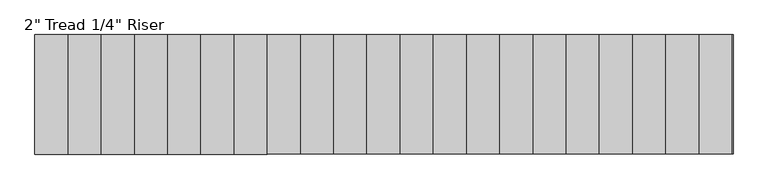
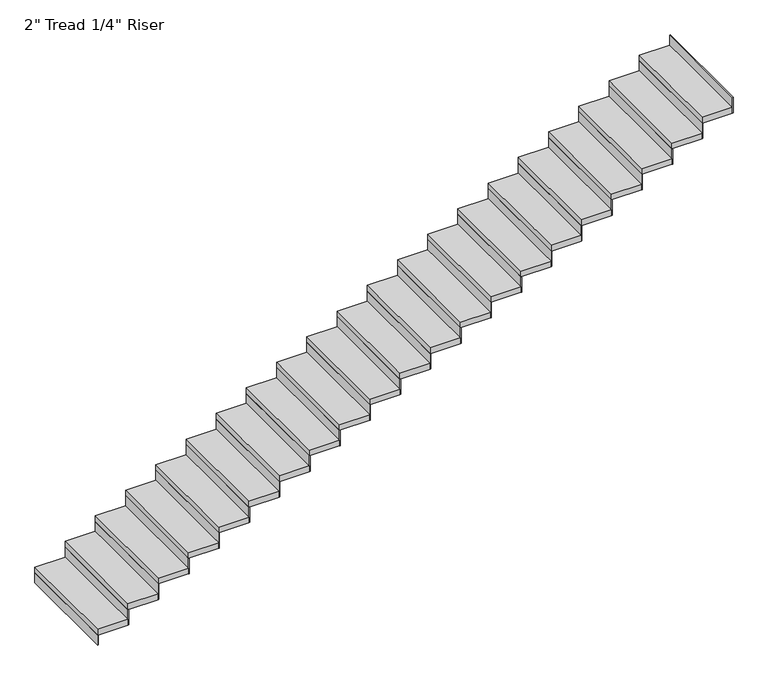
"""IFC4 building model written with IfcOpenShell, lengths in millimetres: stair flight geometry."""

from ifc_helpers import new_model, si_unit, frame, origin, origin_with_axes, place, context, project, spatial, polyline, outline, extrude, source, transform, mapped, element, save


def stair_flight_12b60d69(model_context):
    return source(origin(), model_context, "Body", "SweptSolid", [
        extrude(outline(polyline([(-1725.3713318, 14907.564969), (-1731.7213318, 14907.564969), (-1731.7213318, 15821.964969), (-1725.3713318, 15821.964969), (-1725.3713318, 14907.564969)])), origin_with_axes(), (0.0, 0.0, 1.0), 87.7454545),
        extrude(outline(polyline([(-1477.7213318, 15821.964969), (-1477.7213318, 14907.564969), (-1731.7213318, 14907.564969), (-1731.7213318, 15821.964969), (-1477.7213318, 15821.964969)])), frame((0.0, 0.0, 87.7454545), z_axis=(0.0, 0.0, 1.0), x_axis=(1.0, 0.0, 0.0)), (0.0, 0.0, 1.0), 50.8),
        extrude(outline(polyline([(-1471.3713318, 14907.564969), (-1477.7213318, 14907.564969), (-1477.7213318, 15821.964969), (-1471.3713318, 15821.964969), (-1471.3713318, 14907.564969)])), frame((0.0, 0.0, 87.7454545), z_axis=(0.0, 0.0, 1.0), x_axis=(1.0, 0.0, 0.0)), (0.0, 0.0, 1.0), 138.5454545),
        extrude(outline(polyline([(-1223.7213318, 15821.964969), (-1223.7213318, 14907.564969), (-1477.7213318, 14907.564969), (-1477.7213318, 15821.964969), (-1223.7213318, 15821.964969)])), frame((0.0, 0.0, 226.2909091), z_axis=(0.0, 0.0, 1.0), x_axis=(1.0, 0.0, 0.0)), (0.0, 0.0, 1.0), 50.8),
        extrude(outline(polyline([(-1217.3713318, 14907.564969), (-1223.7213318, 14907.564969), (-1223.7213318, 15821.964969), (-1217.3713318, 15821.964969), (-1217.3713318, 14907.564969)])), frame((0.0, 0.0, 226.2909091), z_axis=(0.0, 0.0, 1.0), x_axis=(1.0, 0.0, 0.0)), (0.0, 0.0, 1.0), 138.5454545),
        extrude(outline(polyline([(-969.7213318, 15821.964969), (-969.7213318, 14907.564969), (-1223.7213318, 14907.564969), (-1223.7213318, 15821.964969), (-969.7213318, 15821.964969)])), frame((0.0, 0.0, 364.8363636), z_axis=(0.0, 0.0, 1.0), x_axis=(1.0, 0.0, 0.0)), (0.0, 0.0, 1.0), 50.8),
        extrude(outline(polyline([(-963.3713318, 14907.564969), (-969.7213318, 14907.564969), (-969.7213318, 15821.964969), (-963.3713318, 15821.964969), (-963.3713318, 14907.564969)])), frame((0.0, 0.0, 364.8363636), z_axis=(0.0, 0.0, 1.0), x_axis=(1.0, 0.0, 0.0)), (0.0, 0.0, 1.0), 138.5454545),
        extrude(outline(polyline([(-715.7213318, 15821.964969), (-715.7213318, 14907.564969), (-969.7213318, 14907.564969), (-969.7213318, 15821.964969), (-715.7213318, 15821.964969)])), frame((0.0, 0.0, 503.3818182), z_axis=(0.0, 0.0, 1.0), x_axis=(1.0, 0.0, 0.0)), (0.0, 0.0, 1.0), 50.8),
        extrude(outline(polyline([(-709.3713318, 14907.564969), (-715.7213318, 14907.564969), (-715.7213318, 15821.964969), (-709.3713318, 15821.964969), (-709.3713318, 14907.564969)])), frame((0.0, 0.0, 503.3818182), z_axis=(0.0, 0.0, 1.0), x_axis=(1.0, 0.0, 0.0)), (0.0, 0.0, 1.0), 138.5454545),
        extrude(outline(polyline([(-461.7213318, 15821.964969), (-461.7213318, 14907.564969), (-715.7213318, 14907.564969), (-715.7213318, 15821.964969), (-461.7213318, 15821.964969)])), frame((0.0, 0.0, 641.9272727), z_axis=(0.0, 0.0, 1.0), x_axis=(1.0, 0.0, 0.0)), (0.0, 0.0, 1.0), 50.8),
        extrude(outline(polyline([(-455.3713318, 14907.564969), (-461.7213318, 14907.564969), (-461.7213318, 15821.964969), (-455.3713318, 15821.964969), (-455.3713318, 14907.564969)])), frame((0.0, 0.0, 641.9272727), z_axis=(0.0, 0.0, 1.0), x_axis=(1.0, 0.0, 0.0)), (0.0, 0.0, 1.0), 138.5454545),
        extrude(outline(polyline([(-207.7213318, 15821.964969), (-207.7213318, 14907.564969), (-461.7213318, 14907.564969), (-461.7213318, 15821.964969), (-207.7213318, 15821.964969)])), frame((0.0, 0.0, 780.4727273), z_axis=(0.0, 0.0, 1.0), x_axis=(1.0, 0.0, 0.0)), (0.0, 0.0, 1.0), 50.8),
        extrude(outline(polyline([(-201.3713318, 14907.564969), (-207.7213318, 14907.564969), (-207.7213318, 15821.964969), (-201.3713318, 15821.964969), (-201.3713318, 14907.564969)])), frame((0.0, 0.0, 780.4727273), z_axis=(0.0, 0.0, 1.0), x_axis=(1.0, 0.0, 0.0)), (0.0, 0.0, 1.0), 138.5454545),
        extrude(outline(polyline([(46.2786682, 15821.964969), (46.2786682, 14907.564969), (-207.7213318, 14907.564969), (-207.7213318, 15821.964969), (46.2786682, 15821.964969)])), frame((0.0, 0.0, 919.0181818), z_axis=(0.0, 0.0, 1.0), x_axis=(1.0, 0.0, 0.0)), (0.0, 0.0, 1.0), 50.8),
        extrude(outline(polyline([(52.6286682, 14907.564969), (46.2786682, 14907.564969), (46.2786682, 15821.964969), (52.6286682, 15821.964969), (52.6286682, 14907.564969)])), frame((0.0, 0.0, 919.0181818), z_axis=(0.0, 0.0, 1.0), x_axis=(1.0, 0.0, 0.0)), (0.0, 0.0, 1.0), 138.5454545),
        extrude(outline(polyline([(300.2786682, 15821.964969), (300.2786682, 14907.564969), (46.2786682, 14907.564969), (46.2786682, 15821.964969), (300.2786682, 15821.964969)])), frame((0.0, 0.0, 1057.5636364), z_axis=(0.0, 0.0, 1.0), x_axis=(1.0, 0.0, 0.0)), (0.0, 0.0, 1.0), 50.8),
        extrude(outline(polyline([(306.6286682, 14907.564969), (300.2786682, 14907.564969), (300.2786682, 15821.964969), (306.6286682, 15821.964969), (306.6286682, 14907.564969)])), frame((0.0, 0.0, 1057.5636364), z_axis=(0.0, 0.0, 1.0), x_axis=(1.0, 0.0, 0.0)), (0.0, 0.0, 1.0), 138.5454545),
        extrude(outline(polyline([(554.2786682, 15821.964969), (554.2786682, 14907.564969), (300.2786682, 14907.564969), (300.2786682, 15821.964969), (554.2786682, 15821.964969)])), frame((0.0, 0.0, 1196.1090909), z_axis=(0.0, 0.0, 1.0), x_axis=(1.0, 0.0, 0.0)), (0.0, 0.0, 1.0), 50.8),
        extrude(outline(polyline([(560.6286682, 14907.564969), (554.2786682, 14907.564969), (554.2786682, 15821.964969), (560.6286682, 15821.964969), (560.6286682, 14907.564969)])), frame((0.0, 0.0, 1196.1090909), z_axis=(0.0, 0.0, 1.0), x_axis=(1.0, 0.0, 0.0)), (0.0, 0.0, 1.0), 138.5454545),
        extrude(outline(polyline([(808.2786682, 15821.964969), (808.2786682, 14907.564969), (554.2786682, 14907.564969), (554.2786682, 15821.964969), (808.2786682, 15821.964969)])), frame((0.0, 0.0, 1334.6545455), z_axis=(0.0, 0.0, 1.0), x_axis=(1.0, 0.0, 0.0)), (0.0, 0.0, 1.0), 50.8),
        extrude(outline(polyline([(814.6286682, 14907.564969), (808.2786682, 14907.564969), (808.2786682, 15821.964969), (814.6286682, 15821.964969), (814.6286682, 14907.564969)])), frame((0.0, 0.0, 1334.6545455), z_axis=(0.0, 0.0, 1.0), x_axis=(1.0, 0.0, 0.0)), (0.0, 0.0, 1.0), 138.5454545),
        extrude(outline(polyline([(1062.2786682, 15821.964969), (1062.2786682, 14907.564969), (808.2786682, 14907.564969), (808.2786682, 15821.964969), (1062.2786682, 15821.964969)])), frame((0.0, 0.0, 1473.2), z_axis=(0.0, 0.0, 1.0), x_axis=(1.0, 0.0, 0.0)), (0.0, 0.0, 1.0), 50.8),
        extrude(outline(polyline([(1068.6286682, 14907.564969), (1062.2786682, 14907.564969), (1062.2786682, 15821.964969), (1068.6286682, 15821.964969), (1068.6286682, 14907.564969)])), frame((0.0, 0.0, 1473.2), z_axis=(0.0, 0.0, 1.0), x_axis=(1.0, 0.0, 0.0)), (0.0, 0.0, 1.0), 138.5454545),
        extrude(outline(polyline([(1316.2786682, 15821.964969), (1316.2786682, 14907.564969), (1062.2786682, 14907.564969), (1062.2786682, 15821.964969), (1316.2786682, 15821.964969)])), frame((0.0, 0.0, 1611.7454545), z_axis=(0.0, 0.0, 1.0), x_axis=(1.0, 0.0, 0.0)), (0.0, 0.0, 1.0), 50.8),
        extrude(outline(polyline([(1322.6286682, 14907.564969), (1316.2786682, 14907.564969), (1316.2786682, 15821.964969), (1322.6286682, 15821.964969), (1322.6286682, 14907.564969)])), frame((0.0, 0.0, 1611.7454545), z_axis=(0.0, 0.0, 1.0), x_axis=(1.0, 0.0, 0.0)), (0.0, 0.0, 1.0), 138.5454545),
        extrude(outline(polyline([(1570.2786682, 15821.964969), (1570.2786682, 14907.564969), (1316.2786682, 14907.564969), (1316.2786682, 15821.964969), (1570.2786682, 15821.964969)])), frame((0.0, 0.0, 1750.2909091), z_axis=(0.0, 0.0, 1.0), x_axis=(1.0, 0.0, 0.0)), (0.0, 0.0, 1.0), 50.8),
        extrude(outline(polyline([(1576.6286682, 14907.564969), (1570.2786682, 14907.564969), (1570.2786682, 15821.964969), (1576.6286682, 15821.964969), (1576.6286682, 14907.564969)])), frame((0.0, 0.0, 1750.2909091), z_axis=(0.0, 0.0, 1.0), x_axis=(1.0, 0.0, 0.0)), (0.0, 0.0, 1.0), 138.5454545),
        extrude(outline(polyline([(1824.2786682, 15821.964969), (1824.2786682, 14907.564969), (1570.2786682, 14907.564969), (1570.2786682, 15821.964969), (1824.2786682, 15821.964969)])), frame((0.0, 0.0, 1888.8363636), z_axis=(0.0, 0.0, 1.0), x_axis=(1.0, 0.0, 0.0)), (0.0, 0.0, 1.0), 50.8),
        extrude(outline(polyline([(1830.6286682, 14907.564969), (1824.2786682, 14907.564969), (1824.2786682, 15821.964969), (1830.6286682, 15821.964969), (1830.6286682, 14907.564969)])), frame((0.0, 0.0, 1888.8363636), z_axis=(0.0, 0.0, 1.0), x_axis=(1.0, 0.0, 0.0)), (0.0, 0.0, 1.0), 138.5454545),
        extrude(outline(polyline([(2078.2786682, 15821.964969), (2078.2786682, 14907.564969), (1824.2786682, 14907.564969), (1824.2786682, 15821.964969), (2078.2786682, 15821.964969)])), frame((0.0, 0.0, 2027.3818182), z_axis=(0.0, 0.0, 1.0), x_axis=(1.0, 0.0, 0.0)), (0.0, 0.0, 1.0), 50.8),
        extrude(outline(polyline([(2084.6286682, 14907.564969), (2078.2786682, 14907.564969), (2078.2786682, 15821.964969), (2084.6286682, 15821.964969), (2084.6286682, 14907.564969)])), frame((0.0, 0.0, 2027.3818182), z_axis=(0.0, 0.0, 1.0), x_axis=(1.0, 0.0, 0.0)), (0.0, 0.0, 1.0), 138.5454545),
        extrude(outline(polyline([(2332.2786682, 15821.964969), (2332.2786682, 14907.564969), (2078.2786682, 14907.564969), (2078.2786682, 15821.964969), (2332.2786682, 15821.964969)])), frame((0.0, 0.0, 2165.9272727), z_axis=(0.0, 0.0, 1.0), x_axis=(1.0, 0.0, 0.0)), (0.0, 0.0, 1.0), 50.8),
        extrude(outline(polyline([(2338.6286682, 14907.564969), (2332.2786682, 14907.564969), (2332.2786682, 15821.964969), (2338.6286682, 15821.964969), (2338.6286682, 14907.564969)])), frame((0.0, 0.0, 2165.9272727), z_axis=(0.0, 0.0, 1.0), x_axis=(1.0, 0.0, 0.0)), (0.0, 0.0, 1.0), 138.5454545),
        extrude(outline(polyline([(2586.2786682, 15821.964969), (2586.2786682, 14907.564969), (2332.2786682, 14907.564969), (2332.2786682, 15821.964969), (2586.2786682, 15821.964969)])), frame((0.0, 0.0, 2304.4727273), z_axis=(0.0, 0.0, 1.0), x_axis=(1.0, 0.0, 0.0)), (0.0, 0.0, 1.0), 50.8),
        extrude(outline(polyline([(2592.6286682, 14907.564969), (2586.2786682, 14907.564969), (2586.2786682, 15821.964969), (2592.6286682, 15821.964969), (2592.6286682, 14907.564969)])), frame((0.0, 0.0, 2304.4727273), z_axis=(0.0, 0.0, 1.0), x_axis=(1.0, 0.0, 0.0)), (0.0, 0.0, 1.0), 138.5454545),
        extrude(outline(polyline([(2840.2786682, 15821.964969), (2840.2786682, 14907.564969), (2586.2786682, 14907.564969), (2586.2786682, 15821.964969), (2840.2786682, 15821.964969)])), frame((0.0, 0.0, 2443.0181818), z_axis=(0.0, 0.0, 1.0), x_axis=(1.0, 0.0, 0.0)), (0.0, 0.0, 1.0), 50.8),
        extrude(outline(polyline([(2846.6286682, 14907.564969), (2840.2786682, 14907.564969), (2840.2786682, 15821.964969), (2846.6286682, 15821.964969), (2846.6286682, 14907.564969)])), frame((0.0, 0.0, 2443.0181818), z_axis=(0.0, 0.0, 1.0), x_axis=(1.0, 0.0, 0.0)), (0.0, 0.0, 1.0), 138.5454545),
        extrude(outline(polyline([(3094.2786682, 15821.964969), (3094.2786682, 14907.564969), (2840.2786682, 14907.564969), (2840.2786682, 15821.964969), (3094.2786682, 15821.964969)])), frame((0.0, 0.0, 2581.5636364), z_axis=(0.0, 0.0, 1.0), x_axis=(1.0, 0.0, 0.0)), (0.0, 0.0, 1.0), 50.8),
        extrude(outline(polyline([(3100.6286682, 14907.564969), (3094.2786682, 14907.564969), (3094.2786682, 15821.964969), (3100.6286682, 15821.964969), (3100.6286682, 14907.564969)])), frame((0.0, 0.0, 2581.5636364), z_axis=(0.0, 0.0, 1.0), x_axis=(1.0, 0.0, 0.0)), (0.0, 0.0, 1.0), 138.5454545),
        extrude(outline(polyline([(3348.2786682, 15821.964969), (3348.2786682, 14907.564969), (3094.2786682, 14907.564969), (3094.2786682, 15821.964969), (3348.2786682, 15821.964969)])), frame((0.0, 0.0, 2720.1090909), z_axis=(0.0, 0.0, 1.0), x_axis=(1.0, 0.0, 0.0)), (0.0, 0.0, 1.0), 50.8),
        extrude(outline(polyline([(3354.6286682, 14907.564969), (3348.2786682, 14907.564969), (3348.2786682, 15821.964969), (3354.6286682, 15821.964969), (3354.6286682, 14907.564969)])), frame((0.0, 0.0, 2720.1090909), z_axis=(0.0, 0.0, 1.0), x_axis=(1.0, 0.0, 0.0)), (0.0, 0.0, 1.0), 138.5454545),
        extrude(outline(polyline([(3608.6286682, 14907.564969), (3602.2786682, 14907.564969), (3602.2786682, 15821.964969), (3608.6286682, 15821.964969), (3608.6286682, 14907.564969)])), frame((0.0, 0.0, 2858.6545455), z_axis=(0.0, 0.0, 1.0), x_axis=(1.0, 0.0, 0.0)), (0.0, 0.0, 1.0), 138.5454545),
        extrude(outline(polyline([(3602.2786682, 15821.964969), (3602.2786682, 14907.564969), (3348.2786682, 14907.564969), (3348.2786682, 15821.964969), (3602.2786682, 15821.964969)])), frame((0.0, 0.0, 2858.6545455), z_axis=(0.0, 0.0, 1.0), x_axis=(1.0, 0.0, 0.0)), (0.0, 0.0, 1.0), 50.8),
    ])


if __name__ == "__main__":
    model = new_model("IFC4")
    model_context = context("Model", 3, world=origin())
    ifc_project = project(units=[si_unit("LENGTHUNIT", "METRE", prefix="MILLI")], contexts=[model_context])
    site = spatial("IfcSite", under=ifc_project)
    building = spatial("IfcBuilding", under=site)
    placement = place(None, origin())
    stair_flight_shape = stair_flight_12b60d69(model_context)
    element("IfcStairFlight", 1, ObjectType="2\" Tread 1/4\" Riser", at=placement, inside=building, context=model_context, shape_type="MappedRepresentation", body=[
        mapped(stair_flight_shape, transform((0.0, 0.0, 0.0), x_axis=(1.0, 0.0, 0.0), y_axis=(0.0, 1.0, 0.0), z_axis=(0.0, 0.0, 1.0))),
    ])
    save(model, "model.ifc")
